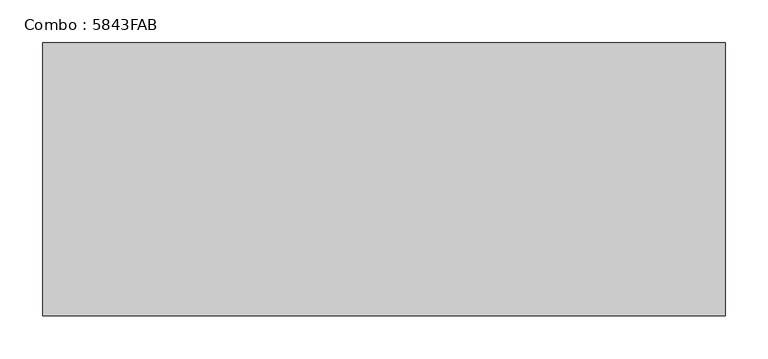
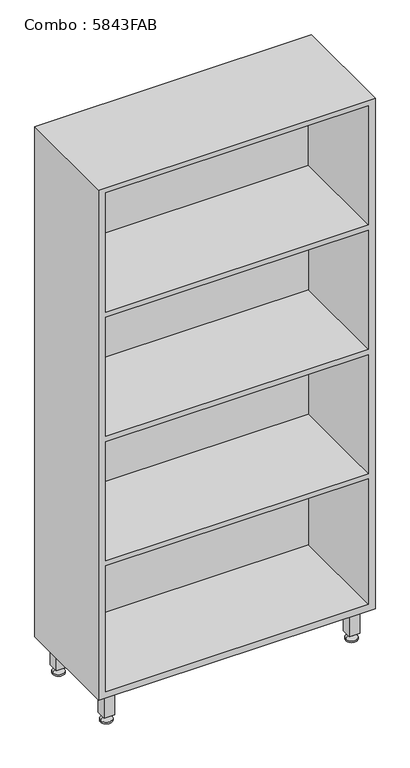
"""IFC4 building model written with IfcOpenShell, lengths in millimetres: furniture geometry, Combo : 5843FAB."""

from ifc_helpers import new_model, si_unit, frame, origin, place, context, project, spatial, polyline, circle_curve, outline, extrude, faceted_brep, source, transform, mapped, element, save
from ifc_brep_helpers import plane_surface, cylinder_surface, revolved_surface, advanced_brep


def combo_5843fab_0cfe6a43(model_context):
    return source(origin(), model_context, "Body", "SolidModel", [
        extrude(outline(polyline([(-370.0, -265.0), (-340.0, -265.0), (-340.0, -295.0), (-370.0, -295.0), (-370.0, -265.0)])), frame((0.0, 0.0, 20.0), z_axis=(0.0, 0.0, 1.0), x_axis=(1.0, 0.0, 0.0)), (0.0, 0.0, 1.0), 80.0),
        extrude(outline(polyline([(370.0, -265.0), (370.0, -295.0), (340.0, -295.0), (340.0, -265.0), (370.0, -265.0)])), frame((0.0, 0.0, 20.0), z_axis=(0.0, 0.0, 1.0), x_axis=(1.0, 0.0, 0.0)), (0.0, 0.0, 1.0), 80.0),
        extrude(outline(polyline([(-370.0, -55.0), (-370.0, -25.0), (-340.0, -25.0), (-340.0, -55.0), (-370.0, -55.0)])), frame((0.0, 0.0, 20.0), z_axis=(0.0, 0.0, 1.0), x_axis=(1.0, 0.0, 0.0)), (0.0, 0.0, 1.0), 80.0),
        extrude(outline(polyline([(370.0, -55.0), (340.0, -55.0), (340.0, -25.0), (370.0, -25.0), (370.0, -55.0)])), frame((0.0, 0.0, 20.0), z_axis=(0.0, 0.0, 1.0), x_axis=(1.0, 0.0, 0.0)), (0.0, 0.0, 1.0), 80.0),
        advanced_brep(
        [(347.1856158, -40.0, 20.0), (362.8143842, -40.0, 20.0), (355.0, -40.0, 20.0), (347.1856158, -40.0, 14.2030034), (362.8143842, -40.0, 14.2030034), (337.9826125, -40.0, 5.0), (372.0173875, -40.0, 5.0), (337.9826125, -40.0, 0.0), (372.0173875, -40.0, 0.0), (355.0, -40.0, 0.0)],
        [
            (0, 1, circle_curve(frame((355.0, -40.0, 20.0), z_axis=(0.0, 0.0, 1.0), x_axis=(1.0, 0.0, 0.0)), 7.8143842)),
            (1, 2),
            (2, 0),
            (1, 0, circle_curve(frame((355.0, -40.0, 20.0), z_axis=(0.0, 0.0, 1.0), x_axis=(1.0, 0.0, 0.0)), 7.8143842)),
            (3, 4, circle_curve(frame((355.0, -40.0, 14.2030034), z_axis=(0.0, 0.0, 1.0), x_axis=(1.0, 0.0, 0.0)), 7.8143842)),
            (4, 1),
            (0, 3),
            (4, 3, circle_curve(frame((355.0, -40.0, 14.2030034), z_axis=(0.0, 0.0, 1.0), x_axis=(1.0, 0.0, 0.0)), 7.8143842)),
            (5, 6, circle_curve(frame((355.0, -40.0, 5.0), z_axis=(0.0, 0.0, 1.0), x_axis=(1.0, 0.0, 0.0)), 17.0173875)),
            (6, 4),
            (3, 5),
            (6, 5, circle_curve(frame((355.0, -40.0, 5.0), z_axis=(0.0, 0.0, 1.0), x_axis=(1.0, 0.0, 0.0)), 17.0173875)),
            (7, 8, circle_curve(frame((355.0, -40.0, 0.0), z_axis=(0.0, 0.0, 1.0), x_axis=(1.0, 0.0, 0.0)), 17.0173875)),
            (8, 6),
            (5, 7),
            (8, 7, circle_curve(frame((355.0, -40.0, 0.0), z_axis=(0.0, 0.0, 1.0), x_axis=(1.0, 0.0, 0.0)), 17.0173875)),
            (9, 8),
            (7, 9),
        ],
        [
            plane_surface(frame((355.0, -40.0, 20.0), z_axis=(0.0, 0.0, 1.0), x_axis=(1.0, 0.0, 0.0))),
            cylinder_surface(frame((355.0, -40.0, 20.0), z_axis=(0.0, 0.0, -1.0), x_axis=(1.0, 0.0, 0.0)), 7.8143842),
            revolved_surface(polyline([(362.8143842, -40.0, 14.2030034), (372.0173875, -40.0, 5.0)]), (355.0, -40.0, 20.0), (0.0, 0.0, -1.0)),
            cylinder_surface(frame((355.0, -40.0, 20.0), z_axis=(0.0, 0.0, -1.0), x_axis=(1.0, 0.0, 0.0)), 17.0173875),
            plane_surface(frame((355.0, -40.0, 0.0), z_axis=(0.0, 0.0, -1.0), x_axis=(1.0, 0.0, 0.0))),
        ],
        [
            (0, [[1, 2, 3]]),
            (0, [[4, -3, -2]]),
            (1, [[5, 6, -1, 7]]),
            (1, [[8, -7, -4, -6]]),
            (2, [[9, 10, -5, 11]]),
            (2, [[12, -11, -8, -10]]),
            (3, [[13, 14, -9, 15]]),
            (3, [[16, -15, -12, -14]]),
            (4, [[17, -13, 18]]),
            (4, [[-18, -16, -17]]),
        ],
    ),
        advanced_brep(
        [(-362.8143842, -40.0, 20.0), (-347.1856158, -40.0, 20.0), (-355.0, -40.0, 20.0), (-362.8143842, -40.0, 14.2030034), (-347.1856158, -40.0, 14.2030034), (-372.0173875, -40.0, 5.0), (-337.9826125, -40.0, 5.0), (-372.0173875, -40.0, 0.0), (-337.9826125, -40.0, 0.0), (-355.0, -40.0, 0.0)],
        [
            (0, 1, circle_curve(frame((-355.0, -40.0, 20.0), z_axis=(0.0, 0.0, 1.0), x_axis=(1.0, 0.0, 0.0)), 7.8143842)),
            (1, 2),
            (2, 0),
            (1, 0, circle_curve(frame((-355.0, -40.0, 20.0), z_axis=(0.0, 0.0, 1.0), x_axis=(1.0, 0.0, 0.0)), 7.8143842)),
            (3, 4, circle_curve(frame((-355.0, -40.0, 14.2030034), z_axis=(0.0, 0.0, 1.0), x_axis=(1.0, 0.0, 0.0)), 7.8143842)),
            (4, 1),
            (0, 3),
            (4, 3, circle_curve(frame((-355.0, -40.0, 14.2030034), z_axis=(0.0, 0.0, 1.0), x_axis=(1.0, 0.0, 0.0)), 7.8143842)),
            (5, 6, circle_curve(frame((-355.0, -40.0, 5.0), z_axis=(0.0, 0.0, 1.0), x_axis=(1.0, 0.0, 0.0)), 17.0173875)),
            (6, 4),
            (3, 5),
            (6, 5, circle_curve(frame((-355.0, -40.0, 5.0), z_axis=(0.0, 0.0, 1.0), x_axis=(1.0, 0.0, 0.0)), 17.0173875)),
            (7, 8, circle_curve(frame((-355.0, -40.0, 0.0), z_axis=(0.0, 0.0, 1.0), x_axis=(1.0, 0.0, 0.0)), 17.0173875)),
            (8, 6),
            (5, 7),
            (8, 7, circle_curve(frame((-355.0, -40.0, 0.0), z_axis=(0.0, 0.0, 1.0), x_axis=(1.0, 0.0, 0.0)), 17.0173875)),
            (9, 8),
            (7, 9),
        ],
        [
            plane_surface(frame((-355.0, -40.0, 20.0), z_axis=(0.0, 0.0, 1.0), x_axis=(1.0, 0.0, 0.0))),
            cylinder_surface(frame((-355.0, -40.0, 20.0), z_axis=(0.0, 0.0, -1.0), x_axis=(1.0, 0.0, 0.0)), 7.8143842),
            revolved_surface(polyline([(-347.1856158, -40.0, 14.2030034), (-337.9826125, -40.0, 5.0)]), (-355.0, -40.0, 20.0), (0.0, 0.0, -1.0)),
            cylinder_surface(frame((-355.0, -40.0, 20.0), z_axis=(0.0, 0.0, -1.0), x_axis=(1.0, 0.0, 0.0)), 17.0173875),
            plane_surface(frame((-355.0, -40.0, 0.0), z_axis=(0.0, 0.0, -1.0), x_axis=(1.0, 0.0, 0.0))),
        ],
        [
            (0, [[1, 2, 3]]),
            (0, [[4, -3, -2]]),
            (1, [[5, 6, -1, 7]]),
            (1, [[8, -7, -4, -6]]),
            (2, [[9, 10, -5, 11]]),
            (2, [[12, -11, -8, -10]]),
            (3, [[13, 14, -9, 15]]),
            (3, [[16, -15, -12, -14]]),
            (4, [[17, -13, 18]]),
            (4, [[-18, -16, -17]]),
        ],
    ),
        advanced_brep(
        [(347.1856158, -280.0, 20.0), (362.8143842, -280.0, 20.0), (355.0, -280.0, 20.0), (347.1856158, -280.0, 14.2030034), (362.8143842, -280.0, 14.2030034), (337.9826125, -280.0, 5.0), (372.0173875, -280.0, 5.0), (337.9826125, -280.0, 0.0), (372.0173875, -280.0, 0.0), (355.0, -280.0, 0.0)],
        [
            (0, 1, circle_curve(frame((355.0, -280.0, 20.0), z_axis=(0.0, 0.0, 1.0), x_axis=(1.0, 0.0, 0.0)), 7.8143842)),
            (1, 2),
            (2, 0),
            (1, 0, circle_curve(frame((355.0, -280.0, 20.0), z_axis=(0.0, 0.0, 1.0), x_axis=(1.0, 0.0, 0.0)), 7.8143842)),
            (3, 4, circle_curve(frame((355.0, -280.0, 14.2030034), z_axis=(0.0, 0.0, 1.0), x_axis=(1.0, 0.0, 0.0)), 7.8143842)),
            (4, 1),
            (0, 3),
            (4, 3, circle_curve(frame((355.0, -280.0, 14.2030034), z_axis=(0.0, 0.0, 1.0), x_axis=(1.0, 0.0, 0.0)), 7.8143842)),
            (5, 6, circle_curve(frame((355.0, -280.0, 5.0), z_axis=(0.0, 0.0, 1.0), x_axis=(1.0, 0.0, 0.0)), 17.0173875)),
            (6, 4),
            (3, 5),
            (6, 5, circle_curve(frame((355.0, -280.0, 5.0), z_axis=(0.0, 0.0, 1.0), x_axis=(1.0, 0.0, 0.0)), 17.0173875)),
            (7, 8, circle_curve(frame((355.0, -280.0, 0.0), z_axis=(0.0, 0.0, 1.0), x_axis=(1.0, 0.0, 0.0)), 17.0173875)),
            (8, 6),
            (5, 7),
            (8, 7, circle_curve(frame((355.0, -280.0, 0.0), z_axis=(0.0, 0.0, 1.0), x_axis=(1.0, 0.0, 0.0)), 17.0173875)),
            (9, 8),
            (7, 9),
        ],
        [
            plane_surface(frame((355.0, -280.0, 20.0), z_axis=(0.0, 0.0, 1.0), x_axis=(1.0, 0.0, 0.0))),
            cylinder_surface(frame((355.0, -280.0, 20.0), z_axis=(0.0, 0.0, -1.0), x_axis=(1.0, 0.0, 0.0)), 7.8143842),
            revolved_surface(polyline([(362.8143842, -280.0, 14.2030034), (372.0173875, -280.0, 5.0)]), (355.0, -280.0, 20.0), (0.0, 0.0, -1.0)),
            cylinder_surface(frame((355.0, -280.0, 20.0), z_axis=(0.0, 0.0, -1.0), x_axis=(1.0, 0.0, 0.0)), 17.0173875),
            plane_surface(frame((355.0, -280.0, 0.0), z_axis=(0.0, 0.0, -1.0), x_axis=(1.0, 0.0, 0.0))),
        ],
        [
            (0, [[1, 2, 3]]),
            (0, [[4, -3, -2]]),
            (1, [[5, 6, -1, 7]]),
            (1, [[8, -7, -4, -6]]),
            (2, [[9, 10, -5, 11]]),
            (2, [[12, -11, -8, -10]]),
            (3, [[13, 14, -9, 15]]),
            (3, [[16, -15, -12, -14]]),
            (4, [[17, -13, 18]]),
            (4, [[-18, -16, -17]]),
        ],
    ),
        advanced_brep(
        [(-362.8143842, -280.0, 20.0), (-347.1856158, -280.0, 20.0), (-355.0, -280.0, 20.0), (-362.8143842, -280.0, 14.2030034), (-347.1856158, -280.0, 14.2030034), (-372.0173875, -280.0, 5.0), (-337.9826125, -280.0, 5.0), (-372.0173875, -280.0, 0.0), (-337.9826125, -280.0, 0.0), (-355.0, -280.0, 0.0)],
        [
            (0, 1, circle_curve(frame((-355.0, -280.0, 20.0), z_axis=(0.0, 0.0, 1.0), x_axis=(1.0, 0.0, 0.0)), 7.8143842)),
            (1, 2),
            (2, 0),
            (1, 0, circle_curve(frame((-355.0, -280.0, 20.0), z_axis=(0.0, 0.0, 1.0), x_axis=(1.0, 0.0, 0.0)), 7.8143842)),
            (3, 4, circle_curve(frame((-355.0, -280.0, 14.2030034), z_axis=(0.0, 0.0, 1.0), x_axis=(1.0, 0.0, 0.0)), 7.8143842)),
            (4, 1),
            (0, 3),
            (4, 3, circle_curve(frame((-355.0, -280.0, 14.2030034), z_axis=(0.0, 0.0, 1.0), x_axis=(1.0, 0.0, 0.0)), 7.8143842)),
            (5, 6, circle_curve(frame((-355.0, -280.0, 5.0), z_axis=(0.0, 0.0, 1.0), x_axis=(1.0, 0.0, 0.0)), 17.0173875)),
            (6, 4),
            (3, 5),
            (6, 5, circle_curve(frame((-355.0, -280.0, 5.0), z_axis=(0.0, 0.0, 1.0), x_axis=(1.0, 0.0, 0.0)), 17.0173875)),
            (7, 8, circle_curve(frame((-355.0, -280.0, 0.0), z_axis=(0.0, 0.0, 1.0), x_axis=(1.0, 0.0, 0.0)), 17.0173875)),
            (8, 6),
            (5, 7),
            (8, 7, circle_curve(frame((-355.0, -280.0, 0.0), z_axis=(0.0, 0.0, 1.0), x_axis=(1.0, 0.0, 0.0)), 17.0173875)),
            (9, 8),
            (7, 9),
        ],
        [
            plane_surface(frame((-355.0, -280.0, 20.0), z_axis=(0.0, 0.0, 1.0), x_axis=(1.0, 0.0, 0.0))),
            cylinder_surface(frame((-355.0, -280.0, 20.0), z_axis=(0.0, 0.0, -1.0), x_axis=(1.0, 0.0, 0.0)), 7.8143842),
            revolved_surface(polyline([(-347.1856158, -280.0, 14.2030034), (-337.9826125, -280.0, 5.0)]), (-355.0, -280.0, 20.0), (0.0, 0.0, -1.0)),
            cylinder_surface(frame((-355.0, -280.0, 20.0), z_axis=(0.0, 0.0, -1.0), x_axis=(1.0, 0.0, 0.0)), 17.0173875),
            plane_surface(frame((-355.0, -280.0, 0.0), z_axis=(0.0, 0.0, -1.0), x_axis=(1.0, 0.0, 0.0))),
        ],
        [
            (0, [[1, 2, 3]]),
            (0, [[4, -3, -2]]),
            (1, [[5, 6, -1, 7]]),
            (1, [[8, -7, -4, -6]]),
            (2, [[9, 10, -5, 11]]),
            (2, [[12, -11, -8, -10]]),
            (3, [[13, 14, -9, 15]]),
            (3, [[16, -15, -12, -14]]),
            (4, [[17, -13, 18]]),
            (4, [[-18, -16, -17]]),
        ],
    ),
        faceted_brep([(400.0, 0.0, 1660.0), (-400.0, 0.0, 1660.0), (-400.0, -320.0, 1660.0), (400.0, -320.0, 1660.0), (-400.0, 0.0, 100.0), (400.0, 0.0, 100.0), (400.0, -320.0, 100.0), (-400.0, -320.0, 100.0), (380.0, -320.0, 1644.0), (380.0, -320.0, 1280.0), (-380.0, -320.0, 1280.0), (-380.0, -320.0, 1644.0), (380.0, -320.0, 120.0), (-380.0, -320.0, 120.0), (-380.0, -320.0, 504.0), (380.0, -320.0, 504.0), (380.0, -320.0, 520.0), (-380.0, -320.0, 520.0), (-380.0, -320.0, 884.0), (380.0, -320.0, 884.0), (380.0, -320.0, 1264.0), (380.0, -320.0, 900.0), (-380.0, -320.0, 900.0), (-380.0, -320.0, 1264.0), (380.0, -20.0, 1644.0), (380.0, -20.0, 1280.0), (-380.0, -20.0, 1280.0), (-380.0, -20.0, 1644.0), (380.0, -20.0, 120.0), (-380.0, -20.0, 120.0), (380.0, -20.0, 520.0), (-380.0, -20.0, 520.0), (380.0, -20.0, 504.0), (-380.0, -20.0, 504.0), (380.0, -20.0, 884.0), (-380.0, -20.0, 884.0), (380.0, -20.0, 900.0), (380.0, -20.0, 1264.0), (-380.0, -20.0, 1264.0), (-380.0, -20.0, 900.0)], [[[0, 1, 2, 3]], [[4, 5, 6, 7]], [[1, 0, 5, 4]], [[2, 1, 4, 7]], [[3, 2, 7, 6], [8, 9, 10, 11], [12, 13, 14, 15], [16, 17, 18, 19], [20, 21, 22, 23]], [[0, 3, 6, 5]], [[24, 25, 9, 8]], [[26, 27, 11, 10]], [[28, 29, 13, 12]], [[30, 31, 17, 16]], [[27, 24, 8, 11]], [[28, 32, 33, 29]], [[32, 28, 12, 15]], [[33, 32, 15, 14]], [[29, 33, 14, 13]], [[30, 34, 35, 31]], [[34, 30, 16, 19]], [[35, 34, 19, 18]], [[31, 35, 18, 17]], [[36, 37, 38, 39]], [[37, 36, 21, 20]], [[38, 37, 20, 23]], [[39, 38, 23, 22]], [[36, 39, 22, 21]], [[25, 24, 27, 26]], [[25, 26, 10, 9]]]),
    ])


if __name__ == "__main__":
    model = new_model("IFC4")
    model_context = context("Model", 3, world=origin())
    ifc_project = project(units=[si_unit("LENGTHUNIT", "METRE", prefix="MILLI")], contexts=[model_context])
    site = spatial("IfcSite", under=ifc_project)
    building = spatial("IfcBuilding", under=site)
    placement = place(None, origin())
    combo_5843fab_shape = combo_5843fab_0cfe6a43(model_context)
    element("IfcFurniture", 1, ObjectType="Combo : 5843FAB", at=placement, inside=building, context=model_context, shape_type="MappedRepresentation", body=[
        mapped(combo_5843fab_shape, transform((0.0, 0.0, 0.0), x_axis=(1.0, 0.0, 0.0), y_axis=(0.0, 1.0, 0.0), z_axis=(0.0, 0.0, 1.0))),
    ])
    save(model, "model.ifc")
